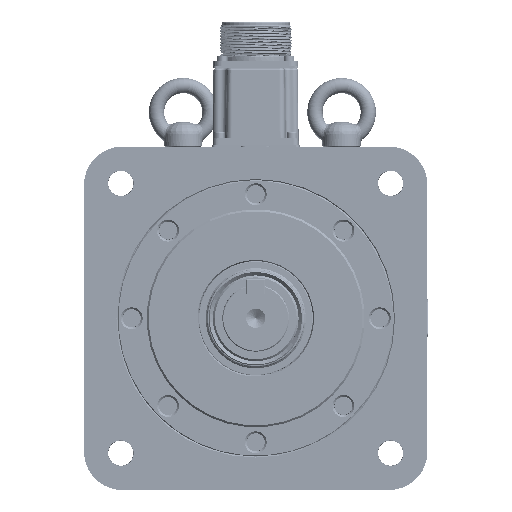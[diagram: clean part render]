
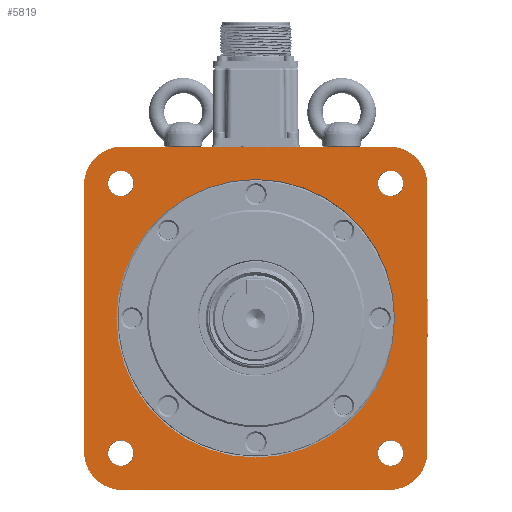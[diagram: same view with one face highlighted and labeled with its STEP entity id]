
A CAD part, front view. The second image highlights one B-rep face of the part: STEP entity #5819.
In plain terms, the highlighted planar face has unit normal (0, -1, 0).
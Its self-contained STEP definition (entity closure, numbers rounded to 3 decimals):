
#5819 = ADVANCED_FACE( '', ( #12340, #12341, #12342, #12343, #12344, #12345 ), #12346, .F. );
#12340 = FACE_BOUND( '', #28765, .T. );
#12341 = FACE_BOUND( '', #28766, .T. );
#12342 = FACE_BOUND( '', #28767, .T. );
#12343 = FACE_BOUND( '', #28768, .T. );
#12344 = FACE_BOUND( '', #28769, .T. );
#12345 = FACE_OUTER_BOUND( '', #28770, .T. );
#12346 = PLANE( '', #28771 );
#28765 = EDGE_LOOP( '', ( #51086 ) );
#28766 = EDGE_LOOP( '', ( #51087 ) );
#28767 = EDGE_LOOP( '', ( #51088 ) );
#28768 = EDGE_LOOP( '', ( #51089 ) );
#28769 = EDGE_LOOP( '', ( #51090 ) );
#28770 = EDGE_LOOP( '', ( #51091, #51092, #51093, #51094, #51095, #51096, #51097, #51098 ) );
#28771 = AXIS2_PLACEMENT_3D( '', #51099, #51100, #51101 );
#51086 = ORIENTED_EDGE( '', *, *, #64645, .T. );
#51087 = ORIENTED_EDGE( '', *, *, #65674, .F. );
#51088 = ORIENTED_EDGE( '', *, *, #65675, .F. );
#51089 = ORIENTED_EDGE( '', *, *, #62297, .F. );
#51090 = ORIENTED_EDGE( '', *, *, #65676, .F. );
#51091 = ORIENTED_EDGE( '', *, *, #65050, .T. );
#51092 = ORIENTED_EDGE( '', *, *, #63560, .T. );
#51093 = ORIENTED_EDGE( '', *, *, #63776, .T. );
#51094 = ORIENTED_EDGE( '', *, *, #62811, .T. );
#51095 = ORIENTED_EDGE( '', *, *, #62384, .T. );
#51096 = ORIENTED_EDGE( '', *, *, #65677, .T. );
#51097 = ORIENTED_EDGE( '', *, *, #65678, .T. );
#51098 = ORIENTED_EDGE( '', *, *, #65679, .T. );
#51099 = CARTESIAN_POINT( '', ( 0., 1.3, 72.5 ) );
#51100 = DIRECTION( '', ( 0., 1., 0. ) );
#51101 = DIRECTION( '', ( 0., 0., 1. ) );
#62297 = EDGE_CURVE( '', #71252, #71252, #71253, .F. );
#62384 = EDGE_CURVE( '', #71394, #71392, #71395, .T. );
#62811 = EDGE_CURVE( '', #72085, #71394, #72086, .F. );
#63560 = EDGE_CURVE( '', #73302, #73303, #73304, .F. );
#63776 = EDGE_CURVE( '', #73303, #72085, #73642, .T. );
#64645 = EDGE_CURVE( '', #74951, #74951, #74952, .T. );
#65050 = EDGE_CURVE( '', #75522, #73302, #75523, .T. );
#65674 = EDGE_CURVE( '', #76399, #76399, #76400, .F. );
#65675 = EDGE_CURVE( '', #76401, #76401, #76402, .F. );
#65676 = EDGE_CURVE( '', #76403, #76403, #76404, .F. );
#65677 = EDGE_CURVE( '', #71392, #76405, #76406, .F. );
#65678 = EDGE_CURVE( '', #76405, #76407, #76408, .T. );
#65679 = EDGE_CURVE( '', #76407, #75522, #76409, .F. );
#71252 = VERTEX_POINT( '', #86366 );
#71253 = CIRCLE( '', #86367, 6.745 );
#71392 = VERTEX_POINT( '', #86542 );
#71394 = VERTEX_POINT( '', #86545 );
#71395 = LINE( '', #86546, #86547 );
#72085 = VERTEX_POINT( '', #88758 );
#72086 = CIRCLE( '', #88759, 20. );
#73302 = VERTEX_POINT( '', #91612 );
#73303 = VERTEX_POINT( '', #91613 );
#73304 = CIRCLE( '', #91614, 20. );
#73642 = LINE( '', #92427, #92428 );
#74951 = VERTEX_POINT( '', #95532 );
#74952 = CIRCLE( '', #95533, 73. );
#75522 = VERTEX_POINT( '', #98004 );
#75523 = LINE( '', #98005, #98006 );
#76399 = VERTEX_POINT( '', #99909 );
#76400 = CIRCLE( '', #99910, 6.745 );
#76401 = VERTEX_POINT( '', #99911 );
#76402 = CIRCLE( '', #99912, 6.745 );
#76403 = VERTEX_POINT( '', #99913 );
#76404 = CIRCLE( '', #99914, 6.745 );
#76405 = VERTEX_POINT( '', #99915 );
#76406 = CIRCLE( '', #99916, 20. );
#76407 = VERTEX_POINT( '', #99917 );
#76408 = LINE( '', #99918, #99919 );
#76409 = CIRCLE( '', #99920, 20. );
#86366 = CARTESIAN_POINT( '', ( 70.711, 1.3, -63.966 ) );
#86367 = AXIS2_PLACEMENT_3D( '', #110537, #110538, #110539 );
#86542 = CARTESIAN_POINT( '', ( 90., 1.3, 70. ) );
#86545 = CARTESIAN_POINT( '', ( 90., 1.3, -70. ) );
#86546 = CARTESIAN_POINT( '', ( 90., 1.3, -90. ) );
#86547 = VECTOR( '', #110658, 1000. );
#88758 = CARTESIAN_POINT( '', ( 70., 1.3, -90. ) );
#88759 = AXIS2_PLACEMENT_3D( '', #111171, #111172, #111173 );
#91612 = CARTESIAN_POINT( '', ( -90., 1.3, -70. ) );
#91613 = CARTESIAN_POINT( '', ( -70., 1.3, -90. ) );
#91614 = AXIS2_PLACEMENT_3D( '', #111995, #111996, #111997 );
#92427 = CARTESIAN_POINT( '', ( -90., 1.3, -90. ) );
#92428 = VECTOR( '', #112264, 1000. );
#95532 = CARTESIAN_POINT( '', ( 0., 1.3, 73. ) );
#95533 = AXIS2_PLACEMENT_3D( '', #113298, #113299, #113300 );
#98004 = CARTESIAN_POINT( '', ( -90., 1.3, 70. ) );
#98005 = CARTESIAN_POINT( '', ( -90., 1.3, 90. ) );
#98006 = VECTOR( '', #113749, 1000. );
#99909 = CARTESIAN_POINT( '', ( -70.711, 1.3, 77.455 ) );
#99910 = AXIS2_PLACEMENT_3D( '', #114432, #114433, #114434 );
#99911 = CARTESIAN_POINT( '', ( 70.711, 1.3, 77.455 ) );
#99912 = AXIS2_PLACEMENT_3D( '', #114435, #114436, #114437 );
#99913 = CARTESIAN_POINT( '', ( -70.711, 1.3, -63.966 ) );
#99914 = AXIS2_PLACEMENT_3D( '', #114438, #114439, #114440 );
#99915 = CARTESIAN_POINT( '', ( 70., 1.3, 90. ) );
#99916 = AXIS2_PLACEMENT_3D( '', #114441, #114442, #114443 );
#99917 = CARTESIAN_POINT( '', ( -70., 1.3, 90. ) );
#99918 = CARTESIAN_POINT( '', ( 90., 1.3, 90. ) );
#99919 = VECTOR( '', #114444, 1000. );
#99920 = AXIS2_PLACEMENT_3D( '', #114445, #114446, #114447 );
#110537 = CARTESIAN_POINT( '', ( 70.711, 1.3, -70.711 ) );
#110538 = DIRECTION( '', ( 0., 1., 0. ) );
#110539 = DIRECTION( '', ( 0., 0., 1. ) );
#110658 = DIRECTION( '', ( 0., 0., 1. ) );
#111171 = CARTESIAN_POINT( '', ( 70., 1.3, -70. ) );
#111172 = DIRECTION( '', ( 0., 1., 0. ) );
#111173 = DIRECTION( '', ( 0., 0., 1. ) );
#111995 = CARTESIAN_POINT( '', ( -70., 1.3, -70. ) );
#111996 = DIRECTION( '', ( 0., 1., 0. ) );
#111997 = DIRECTION( '', ( 0., 0., 1. ) );
#112264 = DIRECTION( '', ( 1., 0., 0. ) );
#113298 = CARTESIAN_POINT( '', ( 0., 1.3, 0. ) );
#113299 = DIRECTION( '', ( 0., 1., 0. ) );
#113300 = DIRECTION( '', ( 0., 0., 1. ) );
#113749 = DIRECTION( '', ( 0., 0., -1. ) );
#114432 = CARTESIAN_POINT( '', ( -70.711, 1.3, 70.711 ) );
#114433 = DIRECTION( '', ( 0., 1., 0. ) );
#114434 = DIRECTION( '', ( 0., 0., 1. ) );
#114435 = CARTESIAN_POINT( '', ( 70.711, 1.3, 70.711 ) );
#114436 = DIRECTION( '', ( 0., 1., 0. ) );
#114437 = DIRECTION( '', ( 0., 0., 1. ) );
#114438 = CARTESIAN_POINT( '', ( -70.711, 1.3, -70.711 ) );
#114439 = DIRECTION( '', ( 0., 1., 0. ) );
#114440 = DIRECTION( '', ( 0., 0., 1. ) );
#114441 = CARTESIAN_POINT( '', ( 70., 1.3, 70. ) );
#114442 = DIRECTION( '', ( 0., 1., 0. ) );
#114443 = DIRECTION( '', ( 0., 0., 1. ) );
#114444 = DIRECTION( '', ( -1., 0., 0. ) );
#114445 = CARTESIAN_POINT( '', ( -70., 1.3, 70. ) );
#114446 = DIRECTION( '', ( 0., 1., 0. ) );
#114447 = DIRECTION( '', ( 0., 0., 1. ) );
